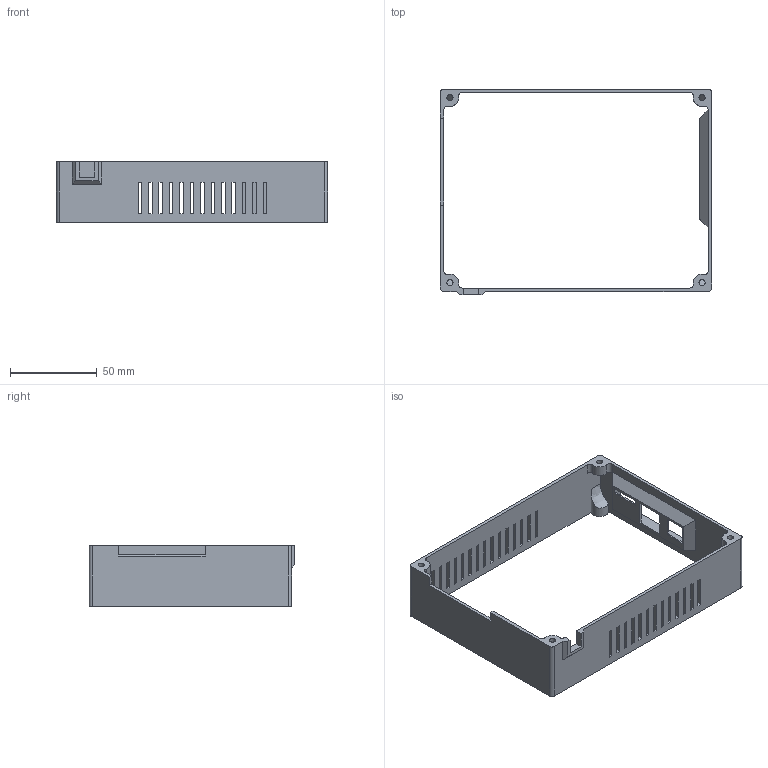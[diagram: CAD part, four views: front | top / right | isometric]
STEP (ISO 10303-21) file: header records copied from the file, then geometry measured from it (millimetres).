
FILE_DESCRIPTION(/* description */ (''),/* implementation_level */ '2;1');
FILE_NAME(/* name */ 'D:\3D печать\Мои проекты\Archy MK 2\STEP\бокс под плату управления.stp',/* time_stamp */ '2019-03-20T22:03:45+06:00',/* author */ ('Пользователь'),/* organization */ (''),/* preprocessor_version */ 'ST-DEVELOPER v16.5',/* originating_system */ 'Autodesk Inventor 2017',/* authorisation */ '');
FILE_SCHEMA (('AUTOMOTIVE_DESIGN { 1 0 10303 214 3 1 1 }'));
Length unit declared in the file: millimetre
Products named in the file (1): бокс под \X2\043F043B
043004420443\X0\ управления
Bounding box: 156 x 118.5 x 35 mm (x, y, z)
Volume: 38437.9 mm3; surface area: 41360 mm2
Topology: 1 solids, 1 shells, 249 faces, 726 edges, 497 vertices
Faces by surface type: plane 217, cylinder 28, bspline 4
Full cylindrical faces by diameter (mm): 3.5 x8
Entity records: 8741 total; most frequent: CARTESIAN_POINT 1977, ORIENTED_EDGE 1412, DIRECTION 1258, EDGE_CURVE 706, LINE 646, VECTOR 646, VERTEX_POINT 477, EDGE_LOOP 339
